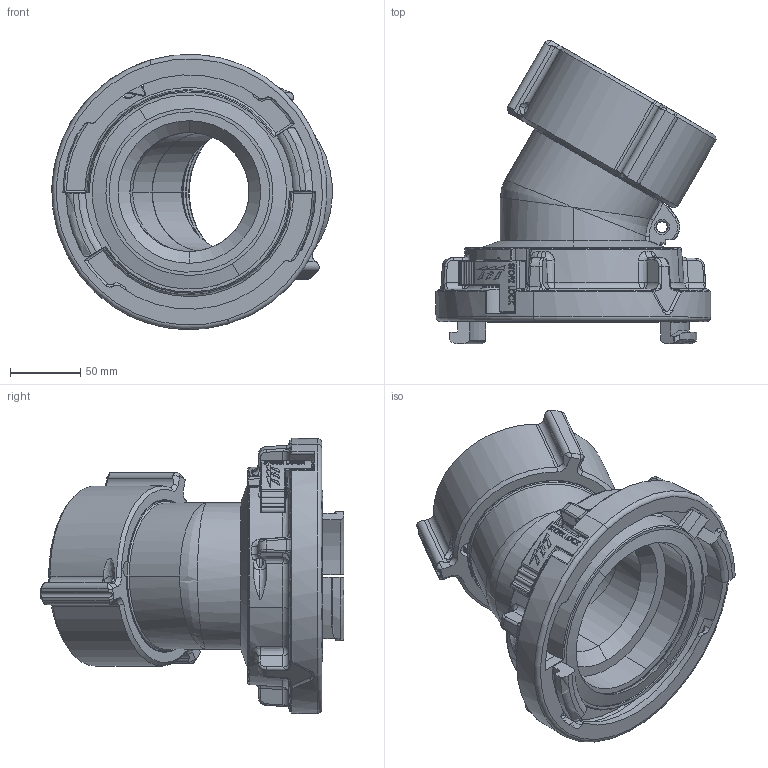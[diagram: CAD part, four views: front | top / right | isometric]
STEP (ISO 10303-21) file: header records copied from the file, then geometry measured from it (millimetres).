
FILE_DESCRIPTION (( 'STEP AP203' ), '1' );
FILE_NAME ('AH3ST-NL.step', '2014-05-13T18:45:16', ( 'user' ), ( '' ), 'SwSTEP 2.0', 'SolidWorks 2012', '' );
FILE_SCHEMA (( 'CONFIG_CONTROL_DESIGN' ));
Length unit declared in the file: inch
Products named in the file (1): AH3ST-NL
Bounding box: 199.7 x 216.3 x 196.01 mm (x, y, z)
Surface area: 251894.3 mm2 (no closed solid volume)
Topology: 0 solids, 16 shells, 1047 faces, 3598 edges, 2435 vertices
Faces by surface type: plane 300, bspline 290, cylinder 229, cone 106, torus 102, sphere 20
Entity records: 56163 total; most frequent: CARTESIAN_POINT 29369, ORIENTED_EDGE 5919, DIRECTION 4497, EDGE_CURVE 3580, VERTEX_POINT 2433, AXIS2_PLACEMENT_3D 1573, VECTOR 1351, LINE 1351
